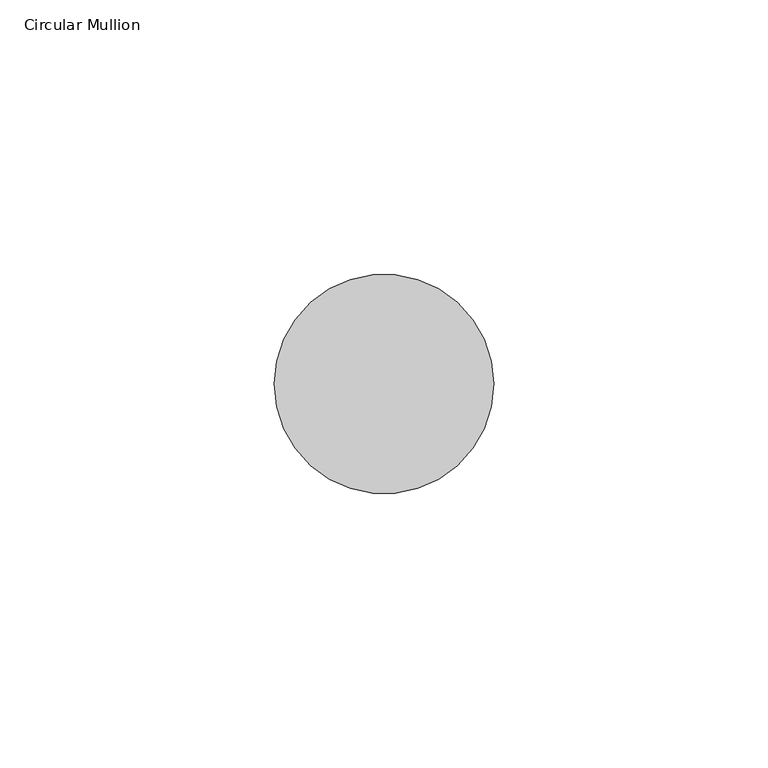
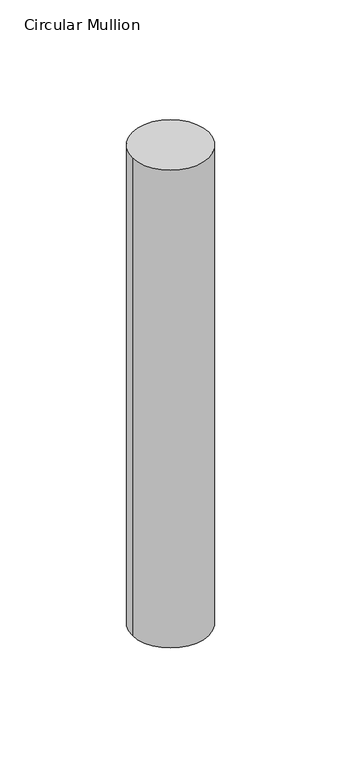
"""IFC4 building model written with IfcOpenShell, lengths in millimetres: member geometry, Circular Mullion : GRADIL 40mm."""

from ifc_helpers import new_model, si_unit, point, frame, origin, origin_2d, place, context, project, spatial, circle_curve, trimmed, segment, composite_curve, outline, extrude, source, transform, mapped, element, save


def circular_mullion_93f1a2a4(model_context):
    return source(origin(), model_context, "Body", "SweptSolid", [
        extrude(outline(composite_curve([segment(trimmed(circle_curve(origin_2d(), 20.0), [point((20.0, 0.0))], [point((-20.0, 0.0))], False, "CARTESIAN"), True, "CONTINUOUS"), segment(trimmed(circle_curve(origin_2d(), 20.0), [point((-20.0, 0.0))], [point((20.0, 0.0))], False, "CARTESIAN"), True, "CONTINUOUS")], self_intersect=False)), frame((0.0, 0.0, -264.2724237), z_axis=(0.0, 0.0, 1.0), x_axis=(1.0, 0.0, 0.0)), (0.0, 0.0, 1.0), 264.2724237),
    ])


if __name__ == "__main__":
    model = new_model("IFC4")
    model_context = context("Model", 3, world=origin())
    ifc_project = project(units=[si_unit("LENGTHUNIT", "METRE", prefix="MILLI")], contexts=[model_context])
    site = spatial("IfcSite", under=ifc_project)
    building = spatial("IfcBuilding", under=site)
    placement = place(None, origin())
    circular_mullion_shape = circular_mullion_93f1a2a4(model_context)
    element("IfcMember", 1, ObjectType="Circular Mullion : GRADIL 40mm", at=placement, inside=building, context=model_context, shape_type="MappedRepresentation", body=[
        mapped(circular_mullion_shape, transform((0.0, 0.0, 0.0), x_axis=(1.0, 0.0, 0.0), y_axis=(0.0, 1.0, 0.0), z_axis=(0.0, 0.0, 1.0))),
    ])
    save(model, "model.ifc")
